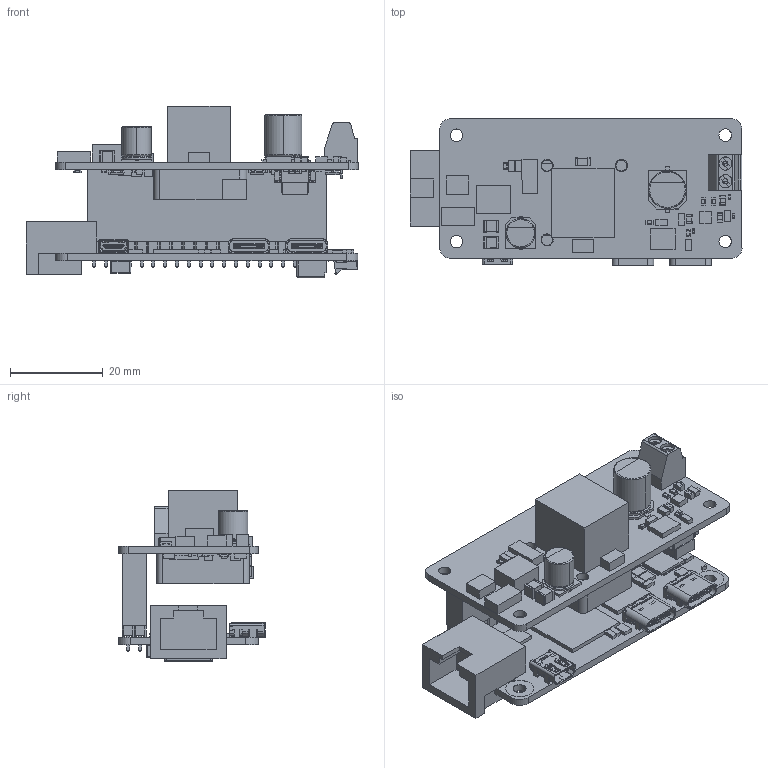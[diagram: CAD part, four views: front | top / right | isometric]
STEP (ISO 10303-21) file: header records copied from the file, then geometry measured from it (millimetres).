
FILE_DESCRIPTION((''),'2;1');
FILE_NAME('RS109_RA023_ASM','2024-06-27T16:41:01',('admin'),(''),'CREO PARAMETRIC BY PTC INC, 2024063','CREO PARAMETRIC BY PTC INC, 2024063','');
FILE_SCHEMA(('CONFIG_CONTROL_DESIGN','SHAPE_APPEARANCE_LAYERS_GROUPS'));
Products named in the file (12): RS109_PCBA; RA023_PCBA_1_1; RA023_PCBA_1_2; RA023_PCBA_1_3; RA023_PCBA_1_4; RA023_PCBA_1_5; RA023_PCBA_1_6; RA023_PCBA_1_7; RA023_PCBA_1_8; RA023_PCBA_1_ASM; RA023_PCBA_ASM; RS109_RA023_ASM
Assembly tree (11 placements, depth 4):
  RS109_RA023_ASM
    RS109_PCBA
    RA023_PCBA_ASM
      RA023_PCBA_1_ASM
        RA023_PCBA_1_1
        RA023_PCBA_1_2
        RA023_PCBA_1_3
        RA023_PCBA_1_4
        RA023_PCBA_1_5
        RA023_PCBA_1_6
        RA023_PCBA_1_7
        RA023_PCBA_1_8
Bounding box: 71.46 x 31.51 x 36.96 mm (x, y, z)
Volume: 17725.4 mm3; surface area: 21021.8 mm2
Topology: 9 solids, 90 shells, 8455 faces, 22701 edges, 14328 vertices
Faces by surface type: plane 6060, cylinder 1946, sphere 306, torus 56, extrusion 34, cone 30, bspline 23
Entity records: 368285 total; most frequent: CARTESIAN_POINT 50125, ORIENTED_EDGE 44954, DIRECTION 42407, EDGE_CURVE 22477, VECTOR 17305, LINE 17271, PRESENTATION_STYLE_ASSIGNMENT 16944, STYLED_ITEM 16456
